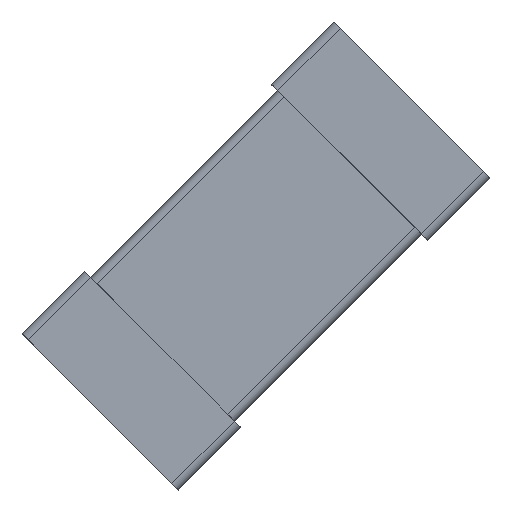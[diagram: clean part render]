
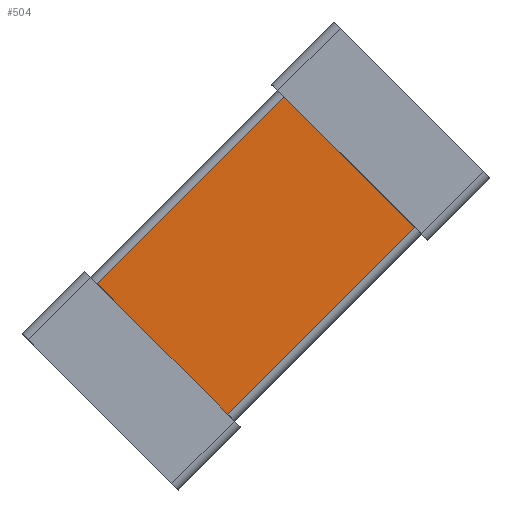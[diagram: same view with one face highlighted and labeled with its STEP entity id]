
A CAD part, top view. The second image highlights one B-rep face of the part: STEP entity #504.
In plain terms, the highlighted planar face has unit normal (0, 0, 1).
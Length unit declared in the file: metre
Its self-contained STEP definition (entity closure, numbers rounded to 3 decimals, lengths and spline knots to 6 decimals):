
#120=ORIENTED_EDGE('',*,*,#237,.F.);
#121=ORIENTED_EDGE('',*,*,#235,.T.);
#122=ORIENTED_EDGE('',*,*,#228,.T.);
#123=ORIENTED_EDGE('',*,*,#238,.F.);
#228=EDGE_CURVE('',#293,#292,#338,.T.);
#235=EDGE_CURVE('',#298,#293,#343,.T.);
#237=EDGE_CURVE('',#298,#299,#344,.T.);
#238=EDGE_CURVE('',#299,#292,#345,.T.);
#292=VERTEX_POINT('',#847);
#293=VERTEX_POINT('',#849);
#298=VERTEX_POINT('',#863);
#299=VERTEX_POINT('',#867);
#338=LINE('',#848,#386);
#343=LINE('',#862,#391);
#344=LINE('',#866,#392);
#345=LINE('',#868,#393);
#386=VECTOR('',#694,1.);
#391=VECTOR('',#707,1.);
#392=VECTOR('',#712,1.);
#393=VECTOR('',#713,1.);
#429=EDGE_LOOP('',(#120,#121,#122,#123));
#459=FACE_BOUND('',#429,.T.);
#483=PLANE('',#607);
#504=ADVANCED_FACE('',(#459),#483,.T.);
#607=AXIS2_PLACEMENT_3D('',#865,#710,#711);
#694=DIRECTION('',(0.707,-0.707,0.));
#707=DIRECTION('',(-0.707,-0.707,0.));
#710=DIRECTION('',(0.,0.,1.));
#711=DIRECTION('',(-0.707,-0.707,0.));
#712=DIRECTION('',(0.707,-0.707,0.));
#713=DIRECTION('',(-0.707,-0.707,0.));
#847=CARTESIAN_POINT('',(0.158235,-0.093862,0.002075));
#848=CARTESIAN_POINT('',(0.157924,-0.093551,0.002075));
#849=CARTESIAN_POINT('',(0.157938,-0.093565,0.002075));
#862=CARTESIAN_POINT('',(0.158362,-0.093141,0.002075));
#863=CARTESIAN_POINT('',(0.158362,-0.093141,0.002075));
#865=CARTESIAN_POINT('',(0.158348,-0.093127,0.002075));
#866=CARTESIAN_POINT('',(0.158348,-0.093127,0.002075));
#867=CARTESIAN_POINT('',(0.158659,-0.093438,0.002075));
#868=CARTESIAN_POINT('',(0.158659,-0.093438,0.002075));
